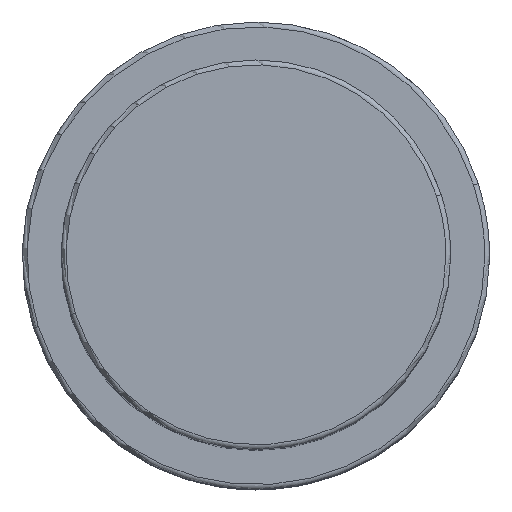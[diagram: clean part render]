
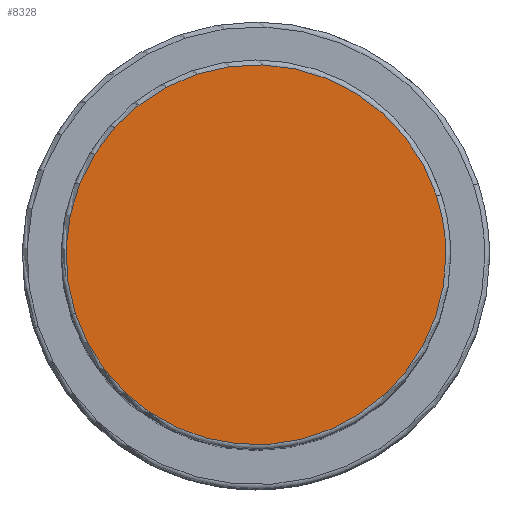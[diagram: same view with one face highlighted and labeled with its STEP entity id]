
A CAD part, top view. The second image highlights one B-rep face of the part: STEP entity #8328.
In plain terms, the highlighted planar face has unit normal (0, 0, 1).
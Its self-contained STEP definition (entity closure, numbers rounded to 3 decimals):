
#8261=CARTESIAN_POINT('',(18.546,6.026,73.5));
#8262=VERTEX_POINT('',#8261);
#8280=CARTESIAN_POINT('',(-18.546,-6.026,73.5));
#8281=VERTEX_POINT('',#8280);
#8289=CARTESIAN_POINT('',(0.0,0.0,73.5));
#8290=DIRECTION('',(0.0,0.0,1.0));
#8291=DIRECTION('',(1.0,0.0,0.0));
#8292=AXIS2_PLACEMENT_3D('',#8289,#8290,#8291);
#8293=CIRCLE('',#8292,19.5);
#8294=EDGE_CURVE('no 4189',#8262,#8281,#8293,.T.);
#8304=CARTESIAN_POINT('',(19.5,0.0,73.5));
#8305=VERTEX_POINT('',#8304);
#8306=CARTESIAN_POINT('',(0.0,0.0,73.5));
#8307=DIRECTION('',(0.0,0.0,1.0));
#8308=DIRECTION('',(1.0,0.0,0.0));
#8309=AXIS2_PLACEMENT_3D('',#8306,#8307,#8308);
#8310=CIRCLE('',#8309,19.5);
#8311=EDGE_CURVE('no 4198',#8305,#8262,#8310,.T.);
#8312=ORIENTED_EDGE('',*,*,#8311,.T.);
#8313=ORIENTED_EDGE('',*,*,#8294,.T.);
#8314=CARTESIAN_POINT('',(0.0,0.0,73.5));
#8315=DIRECTION('',(0.0,0.0,1.0));
#8316=DIRECTION('',(1.0,0.0,0.0));
#8317=AXIS2_PLACEMENT_3D('',#8314,#8315,#8316);
#8318=CIRCLE('',#8317,19.5);
#8319=EDGE_CURVE('no 4204',#8281,#8305,#8318,.T.);
#8320=ORIENTED_EDGE('',*,*,#8319,.T.);
#8321=EDGE_LOOP('',(#8312,#8313,#8320));
#8322=FACE_OUTER_BOUND('',#8321,.T.);
#8323=CARTESIAN_POINT('',(0.0,0.0,73.5));
#8324=DIRECTION('',(0.0,0.0,1.0));
#8325=DIRECTION('',(1.0,0.0,0.0));
#8326=AXIS2_PLACEMENT_3D('',#8323,#8324,#8325);
#8327=PLANE('',#8326);
#8328=ADVANCED_FACE('no 4191',(#8322),#8327,.T.);
